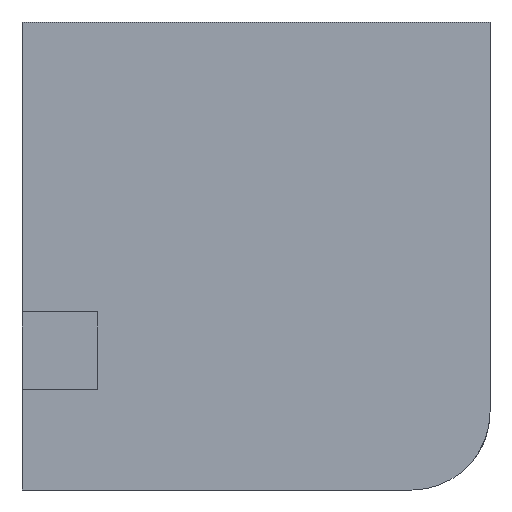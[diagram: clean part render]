
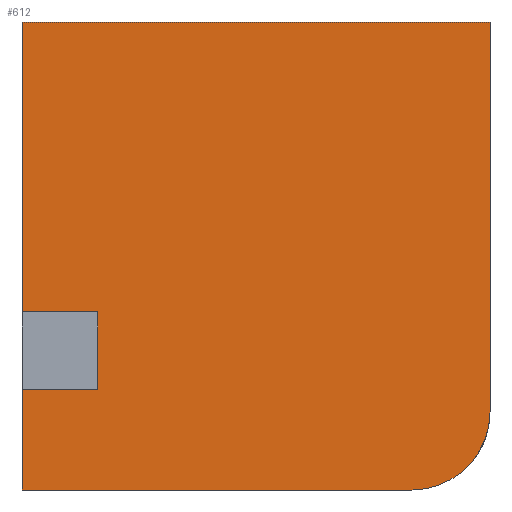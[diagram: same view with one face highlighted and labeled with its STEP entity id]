
A CAD part, front view. The second image highlights one B-rep face of the part: STEP entity #612.
In plain terms, the highlighted planar face has unit normal (0, -1, 0).
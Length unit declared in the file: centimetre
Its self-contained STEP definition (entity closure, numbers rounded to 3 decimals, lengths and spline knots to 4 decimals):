
#27 = VERTEX_POINT ( 'NONE', #666 ) ;
#33 = ORIENTED_EDGE ( 'NONE', *, *, #525, .F. ) ;
#40 = EDGE_LOOP ( 'NONE', ( #268, #539, #70, #867, #621, #33, #553, #176, #229 ) ) ;
#41 = FACE_OUTER_BOUND ( 'NONE', #40, .T. ) ;
#42 = VERTEX_POINT ( 'NONE', #105 ) ;
#47 = EDGE_CURVE ( 'NONE', #793, #471, #180, .T. ) ;
#68 = DIRECTION ( 'NONE',  ( 0., 0., -1. ) ) ;
#70 = ORIENTED_EDGE ( 'NONE', *, *, #47, .T. ) ;
#75 = DIRECTION ( 'NONE',  ( 1., 0., 0. ) ) ;
#82 = CARTESIAN_POINT ( 'NONE',  ( 0., 0., 0. ) ) ;
#98 = LINE ( 'NONE', #175, #596 ) ;
#101 = CARTESIAN_POINT ( 'NONE',  ( 0., 0., 1000. ) ) ;
#105 = CARTESIAN_POINT ( 'NONE',  ( 1000., 0., 1000. ) ) ;
#165 = VECTOR ( 'NONE', #691, 100. ) ;
#170 = DIRECTION ( 'NONE',  ( 0., 1., 0. ) ) ;
#175 = CARTESIAN_POINT ( 'NONE',  ( 161.4035, 0., 215.1959 ) ) ;
#176 = ORIENTED_EDGE ( 'NONE', *, *, #292, .T. ) ;
#180 = LINE ( 'NONE', #731, #912 ) ;
#184 = LINE ( 'NONE', #507, #915 ) ;
#198 = CARTESIAN_POINT ( 'NONE',  ( 0., 0., 1000. ) ) ;
#205 = VECTOR ( 'NONE', #68, 100. ) ;
#217 = LINE ( 'NONE', #301, #205 ) ;
#225 = LINE ( 'NONE', #697, #907 ) ;
#229 = ORIENTED_EDGE ( 'NONE', *, *, #265, .F. ) ;
#241 = CARTESIAN_POINT ( 'NONE',  ( 833.2439, 0., 166.7561 ) ) ;
#265 = EDGE_CURVE ( 'NONE', #849, #350, #296, .T. ) ;
#268 = ORIENTED_EDGE ( 'NONE', *, *, #908, .F. ) ;
#270 = AXIS2_PLACEMENT_3D ( 'NONE', #241, #390, #541 ) ;
#289 = AXIS2_PLACEMENT_3D ( 'NONE', #348, #170, #664 ) ;
#292 = EDGE_CURVE ( 'NONE', #588, #350, #217, .T. ) ;
#295 = CARTESIAN_POINT ( 'NONE',  ( 0., 0., 215.1959 ) ) ;
#296 = LINE ( 'NONE', #783, #165 ) ;
#299 = CARTESIAN_POINT ( 'NONE',  ( 161.4035, 0., 380.4905 ) ) ;
#301 = CARTESIAN_POINT ( 'NONE',  ( 0., 0., 1000. ) ) ;
#340 = PLANE ( 'NONE',  #289 ) ;
#348 = CARTESIAN_POINT ( 'NONE',  ( 0., 0., 1000. ) ) ;
#350 = VERTEX_POINT ( 'NONE', #715 ) ;
#365 = CIRCLE ( 'NONE', #270, 166.7561 ) ;
#375 = EDGE_CURVE ( 'NONE', #864, #704, #365, .T. ) ;
#386 = VECTOR ( 'NONE', #394, 100. ) ;
#390 = DIRECTION ( 'NONE',  ( 0., -1., 0. ) ) ;
#394 = DIRECTION ( 'NONE',  ( 1., 0., 0. ) ) ;
#459 = CARTESIAN_POINT ( 'NONE',  ( 833.2439, 0., 0. ) ) ;
#469 = LINE ( 'NONE', #918, #836 ) ;
#471 = VERTEX_POINT ( 'NONE', #82 ) ;
#505 = DIRECTION ( 'NONE',  ( -1., 0., 0. ) ) ;
#507 = CARTESIAN_POINT ( 'NONE',  ( 1000., 0., 1000. ) ) ;
#514 = EDGE_CURVE ( 'NONE', #27, #793, #98, .T. ) ;
#525 = EDGE_CURVE ( 'NONE', #42, #704, #184, .T. ) ;
#539 = ORIENTED_EDGE ( 'NONE', *, *, #514, .T. ) ;
#541 = DIRECTION ( 'NONE',  ( 0., 0., 1. ) ) ;
#553 = ORIENTED_EDGE ( 'NONE', *, *, #628, .F. ) ;
#582 = DIRECTION ( 'NONE',  ( 0., 0., -1. ) ) ;
#588 = VERTEX_POINT ( 'NONE', #101 ) ;
#596 = VECTOR ( 'NONE', #505, 100. ) ;
#612 = ADVANCED_FACE ( 'NONE', ( #41 ), #340, .F. ) ;
#621 = ORIENTED_EDGE ( 'NONE', *, *, #375, .T. ) ;
#628 = EDGE_CURVE ( 'NONE', #588, #42, #902, .T. ) ;
#664 = DIRECTION ( 'NONE',  ( 0., 0., 1. ) ) ;
#666 = CARTESIAN_POINT ( 'NONE',  ( 161.4035, 0., 215.1959 ) ) ;
#691 = DIRECTION ( 'NONE',  ( -1., 0., 0. ) ) ;
#697 = CARTESIAN_POINT ( 'NONE',  ( 0., 0., 0. ) ) ;
#704 = VERTEX_POINT ( 'NONE', #977 ) ;
#715 = CARTESIAN_POINT ( 'NONE',  ( 0., 0., 380.4905 ) ) ;
#731 = CARTESIAN_POINT ( 'NONE',  ( 0., 0., 1000. ) ) ;
#778 = EDGE_CURVE ( 'NONE', #471, #864, #225, .T. ) ;
#783 = CARTESIAN_POINT ( 'NONE',  ( 161.4035, 0., 380.4905 ) ) ;
#793 = VERTEX_POINT ( 'NONE', #295 ) ;
#836 = VECTOR ( 'NONE', #935, 100. ) ;
#849 = VERTEX_POINT ( 'NONE', #299 ) ;
#864 = VERTEX_POINT ( 'NONE', #459 ) ;
#867 = ORIENTED_EDGE ( 'NONE', *, *, #778, .T. ) ;
#888 = DIRECTION ( 'NONE',  ( 0., 0., -1. ) ) ;
#902 = LINE ( 'NONE', #198, #386 ) ;
#907 = VECTOR ( 'NONE', #75, 100. ) ;
#908 = EDGE_CURVE ( 'NONE', #27, #849, #469, .T. ) ;
#912 = VECTOR ( 'NONE', #888, 100. ) ;
#915 = VECTOR ( 'NONE', #582, 100. ) ;
#918 = CARTESIAN_POINT ( 'NONE',  ( 161.4035, 0., 215.1959 ) ) ;
#935 = DIRECTION ( 'NONE',  ( 0., 0., 1. ) ) ;
#977 = CARTESIAN_POINT ( 'NONE',  ( 1000., 0., 166.7561 ) ) ;
